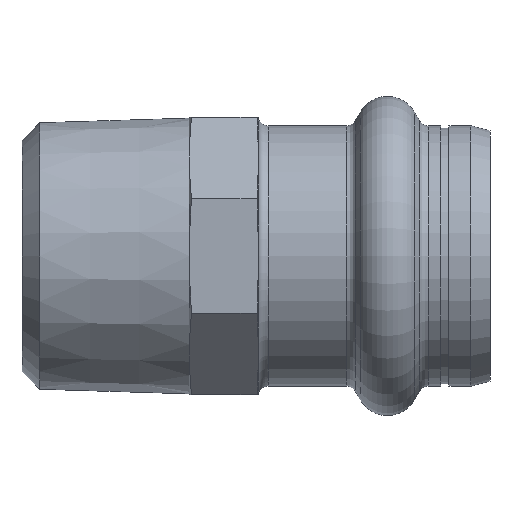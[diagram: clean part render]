
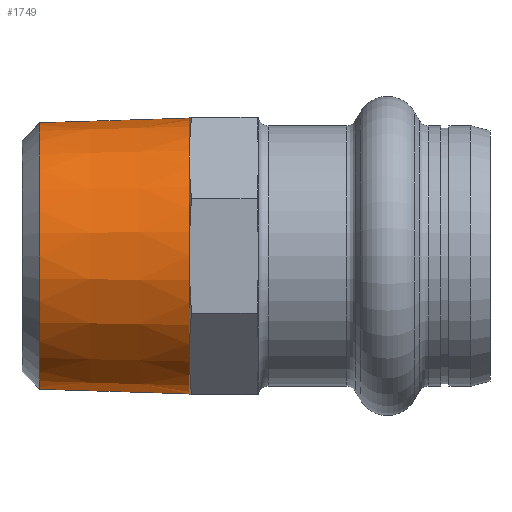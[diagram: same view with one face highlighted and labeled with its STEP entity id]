
A CAD part, left-side view. The second image highlights one B-rep face of the part: STEP entity #1749.
In plain terms, the highlighted conical face has half-angle 1.78 degrees and reference radius 13.432 mm.
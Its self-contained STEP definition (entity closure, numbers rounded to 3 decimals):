
#99 = EDGE_CURVE ( 'NONE', #265, #893, #1517, .T. ) ;
#102 = DIRECTION ( 'NONE',  ( 0., 0., -1. ) ) ;
#135 = LINE ( 'NONE', #400, #1035 ) ;
#144 = DIRECTION ( 'NONE',  ( 0., 0., -1. ) ) ;
#150 = DIRECTION ( 'NONE',  ( 0., -1., 0. ) ) ;
#162 = CARTESIAN_POINT ( 'NONE',  ( 0., 29.3, 0. ) ) ;
#265 = VERTEX_POINT ( 'NONE', #1068 ) ;
#372 = AXIS2_PLACEMENT_3D ( 'NONE', #1571, #1640, #786 ) ;
#400 = CARTESIAN_POINT ( 'NONE',  ( 0., 29.3, -13.432 ) ) ;
#415 = LINE ( 'NONE', #1631, #1202 ) ;
#441 = AXIS2_PLACEMENT_3D ( 'NONE', #698, #1126, #102 ) ;
#568 = EDGE_CURVE ( 'NONE', #1131, #833, #1867, .T. ) ;
#633 = AXIS2_PLACEMENT_3D ( 'NONE', #162, #150, #144 ) ;
#662 = CARTESIAN_POINT ( 'NONE',  ( 0., 29.3, 13.432 ) ) ;
#698 = CARTESIAN_POINT ( 'NONE',  ( 0., 29.3, 0. ) ) ;
#786 = DIRECTION ( 'NONE',  ( 0., 0., -1. ) ) ;
#819 = DIRECTION ( 'NONE',  ( 0., -1., 0.031 ) ) ;
#833 = VERTEX_POINT ( 'NONE', #1325 ) ;
#843 = ORIENTED_EDGE ( 'NONE', *, *, #99, .T. ) ;
#870 = ORIENTED_EDGE ( 'NONE', *, *, #568, .F. ) ;
#893 = VERTEX_POINT ( 'NONE', #1496 ) ;
#1035 = VECTOR ( 'NONE', #1140, 1000. ) ;
#1068 = CARTESIAN_POINT ( 'NONE',  ( 0., 43.871, 12.979 ) ) ;
#1106 = FACE_OUTER_BOUND ( 'NONE', #1491, .T. ) ;
#1109 = ORIENTED_EDGE ( 'NONE', *, *, #1282, .F. ) ;
#1126 = DIRECTION ( 'NONE',  ( 0., -1., 0. ) ) ;
#1131 = VERTEX_POINT ( 'NONE', #662 ) ;
#1140 = DIRECTION ( 'NONE',  ( 0., -1., -0.031 ) ) ;
#1202 = VECTOR ( 'NONE', #819, 1000. ) ;
#1245 = EDGE_CURVE ( 'NONE', #893, #833, #135, .T. ) ;
#1282 = EDGE_CURVE ( 'NONE', #265, #1131, #415, .T. ) ;
#1325 = CARTESIAN_POINT ( 'NONE',  ( 0., 29.3, -13.432 ) ) ;
#1435 = CONICAL_SURFACE ( 'NONE', #441, 13.432, 0.031 ) ;
#1444 = ORIENTED_EDGE ( 'NONE', *, *, #1245, .T. ) ;
#1491 = EDGE_LOOP ( 'NONE', ( #1109, #843, #1444, #870 ) ) ;
#1496 = CARTESIAN_POINT ( 'NONE',  ( 0., 43.871, -12.979 ) ) ;
#1517 = CIRCLE ( 'NONE', #372, 12.979 ) ;
#1571 = CARTESIAN_POINT ( 'NONE',  ( 0., 43.871, 0. ) ) ;
#1631 = CARTESIAN_POINT ( 'NONE',  ( 0., 29.3, 13.432 ) ) ;
#1640 = DIRECTION ( 'NONE',  ( 0., -1., 0. ) ) ;
#1749 = ADVANCED_FACE ( 'NONE', ( #1106 ), #1435, .T. ) ;
#1867 = CIRCLE ( 'NONE', #633, 13.432 ) ;
